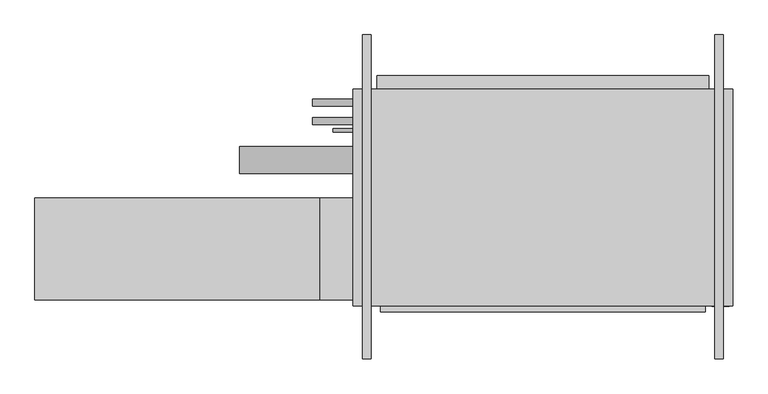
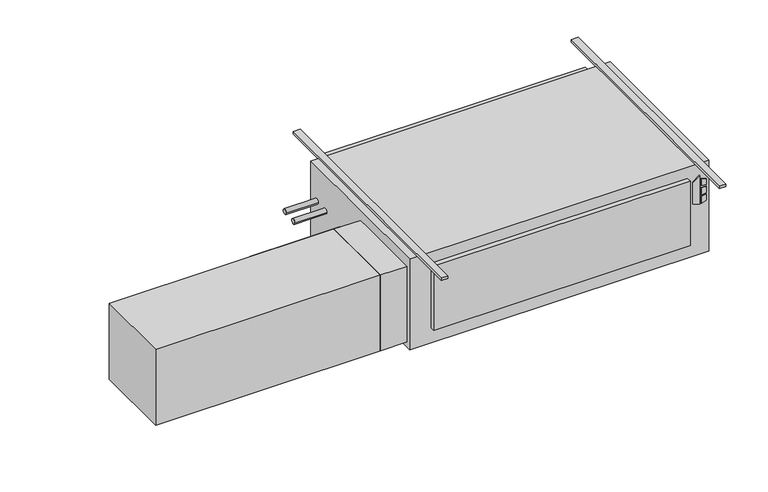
"""IFC4 building model written with IfcOpenShell, lengths in millimetres: proxy geometry."""

from ifc_helpers import new_model, si_unit, point, frame, frame_2d, origin, origin_with_axes, place, context, project, spatial, polyline, circle_curve, trimmed, segment, composite_curve, outline, extrude, source, transform, mapped, element, save


def mechanical_equipment_f77b4c18(model_context):
    return source(origin(), model_context, "Body", "SweptSolid", [
        extrude(outline(polyline([(-193.2519297, 785.8868862), (-203.2, 818.0602728), (-61.0290756, 818.0602728), (-84.0510817, 785.8868862), (-193.2519297, 785.8868862)])), frame((0.0, -647.7, 0.0), z_axis=(0.0, 1.0, 0.0), x_axis=(0.0, 0.0, 1.0)), (0.0, 0.0, 1.0), 3.175),
        extrude(outline(polyline([(-114.2526443, 824.8186058), (-117.4550368, 850.9), (-88.2261958, 850.9), (-80.1617807, 824.8186058), (-114.2526443, 824.8186058)])), frame((0.0, -647.7, 0.0), z_axis=(0.0, 1.0, 0.0), x_axis=(0.0, 0.0, 1.0)), (0.0, 0.0, 1.0), 3.175),
        extrude(outline(polyline([(-166.1161712, 850.9), (-169.7816721, 824.8186058), (-203.2, 824.8186058), (-194.5657628, 850.9), (-166.1161712, 850.9)])), frame((0.0, -647.7, 0.0), z_axis=(0.0, 1.0, 0.0), x_axis=(0.0, 0.0, 1.0)), (0.0, 0.0, 1.0), 3.175),
        extrude(outline(polyline([(-126.8010097, 850.9), (-124.5191834, 824.8186058), (-160.4567319, 824.8186058), (-157.7154669, 850.9), (-126.8010097, 850.9)])), frame((0.0, -647.7, 0.0), z_axis=(0.0, 1.0, 0.0), x_axis=(0.0, 0.0, 1.0)), (0.0, 0.0, 1.0), 3.175),
        extrude(outline(polyline([(762.0, -666.877), (-457.2, -666.877), (-457.2, -644.525), (762.0, -644.525), (762.0, -666.877)])), frame((0.0, 0.0, -381.0), z_axis=(0.0, 0.0, 1.0), x_axis=(1.0, 0.0, 0.0)), (0.0, 0.0, 1.0), 323.85),
        extrude(outline(polyline([(-1752.6, -622.3), (-1752.6, -241.3), (-685.8, -241.3), (-685.8, -622.3), (-1752.6, -622.3)])), frame((0.0, 0.0, -431.8), z_axis=(0.0, 0.0, 1.0), x_axis=(1.0, 0.0, 0.0)), (0.0, 0.0, 1.0), 381.0),
        extrude(outline(polyline([(-558.8, -241.3), (-558.8, -622.3), (-685.8, -622.3), (-685.8, -241.3), (-558.8, -241.3)])), frame((0.0, 0.0, -431.8), z_axis=(0.0, 0.0, 1.0), x_axis=(1.0, 0.0, 0.0)), (0.0, 0.0, 1.0), 381.0),
        extrude(outline(composite_curve([segment(trimmed(circle_curve(frame_2d((-98.4896516, -228.6360165)), 50.8), [point((-149.2896516, -228.6360165))], [point((-47.6896516, -228.6360165))], False, "CARTESIAN"), True, "CONTINUOUS"), segment(trimmed(circle_curve(frame_2d((-98.4896516, -228.6360165)), 50.8), [point((-47.6896516, -228.6360165))], [point((-149.2896516, -228.6360165))], False, "CARTESIAN"), True, "CONTINUOUS")], self_intersect=False)), frame((-984.25, 0.0, 0.0), z_axis=(1.0, 0.0, 0.0), x_axis=(0.0, 1.0, 0.0)), (0.0, 0.0, 1.0), 425.45),
        extrude(outline(composite_curve([segment(trimmed(circle_curve(frame_2d((47.625, -177.8)), 12.7), [point((34.925, -177.8))], [point((60.325, -177.8))], False, "CARTESIAN"), True, "CONTINUOUS"), segment(trimmed(circle_curve(frame_2d((47.625, -177.8)), 12.7), [point((60.325, -177.8))], [point((34.925, -177.8))], False, "CARTESIAN"), True, "CONTINUOUS")], self_intersect=False)), frame((-711.2, 0.0, 0.0), z_axis=(1.0, 0.0, 0.0), x_axis=(0.0, 1.0, 0.0)), (0.0, 0.0, 1.0), 152.4),
        extrude(outline(composite_curve([segment(trimmed(circle_curve(frame_2d((117.475, -171.45)), 12.7), [point((104.775, -171.45))], [point((130.175, -171.45))], False, "CARTESIAN"), True, "CONTINUOUS"), segment(trimmed(circle_curve(frame_2d((117.475, -171.45)), 12.7), [point((130.175, -171.45))], [point((104.775, -171.45))], False, "CARTESIAN"), True, "CONTINUOUS")], self_intersect=False)), frame((-711.2, 0.0, 0.0), z_axis=(1.0, 0.0, 0.0), x_axis=(0.0, 1.0, 0.0)), (0.0, 0.0, 1.0), 152.4),
        extrude(outline(composite_curve([segment(trimmed(circle_curve(frame_2d((12.7, -409.575)), 6.35), [point((6.35, -409.575))], [point((19.05, -409.575))], False, "CARTESIAN"), True, "CONTINUOUS"), segment(trimmed(circle_curve(frame_2d((12.7, -409.575)), 6.35), [point((19.05, -409.575))], [point((6.35, -409.575))], False, "CARTESIAN"), True, "CONTINUOUS")], self_intersect=False)), frame((-635.0, 0.0, 0.0), z_axis=(1.0, 0.0, 0.0), x_axis=(0.0, 1.0, 0.0)), (0.0, 0.0, 1.0), 76.2),
        extrude(outline(polyline([(863.6, 168.275), (863.6, -644.525), (-558.8, -644.525), (-558.8, 168.275), (863.6, 168.275)])), frame((0.0, 0.0, -457.2), z_axis=(0.0, 0.0, 1.0), x_axis=(1.0, 0.0, 0.0)), (0.0, 0.0, 1.0), 457.2),
        extrude(outline(polyline([(-469.9, 219.075), (774.7, 219.075), (774.7, 168.275), (-469.9, 168.275), (-469.9, 219.075)])), frame((0.0, 0.0, -381.0), z_axis=(0.0, 0.0, 1.0), x_axis=(1.0, 0.0, 0.0)), (0.0, 0.0, 1.0), 355.6),
        extrude(outline(polyline([(-492.125, 371.475), (-492.125, -844.677), (-523.875, -844.677), (-523.875, 371.475), (-492.125, 371.475)])), origin_with_axes(), (0.0, 0.0, 1.0), 12.7),
        extrude(outline(polyline([(828.675, 371.475), (828.675, -844.677), (796.925, -844.677), (796.925, 371.475), (828.675, 371.475)])), origin_with_axes(), (0.0, 0.0, 1.0), 12.7),
    ])


if __name__ == "__main__":
    model = new_model("IFC4")
    model_context = context("Model", 3, world=origin())
    ifc_project = project(units=[si_unit("LENGTHUNIT", "METRE", prefix="MILLI")], contexts=[model_context])
    site = spatial("IfcSite", under=ifc_project)
    building = spatial("IfcBuilding", under=site)
    placement = place(None, origin())
    mechanical_equipment_shape = mechanical_equipment_f77b4c18(model_context)
    element("IfcBuildingElementProxy", 1, Name="High_Capacity_Horizontal_Cabinet_Fan_Coil_Unit_-_HTY_-_IEC_-_2-Pipe_LH Side_2022 : Size 20 - 115v/60Hz/1Ph - 4/0 Coil - 4\" AirIn", ObjectType="High_Capacity_Horizontal_Cabinet_Fan_Coil_Unit_-_HTY_-_IEC_-_2-Pipe_LH Side_2022 : Size 20 - 115v/60Hz/1Ph - 4/0 Coil - 4\" AirIn", at=placement, inside=building, context=model_context, shape_type="MappedRepresentation", body=[
        mapped(mechanical_equipment_shape, transform((0.0, 0.0, 0.0), x_axis=(1.0, 0.0, 0.0), y_axis=(0.0, 1.0, 0.0), z_axis=(0.0, 0.0, 1.0))),
    ])
    save(model, "model.ifc")
